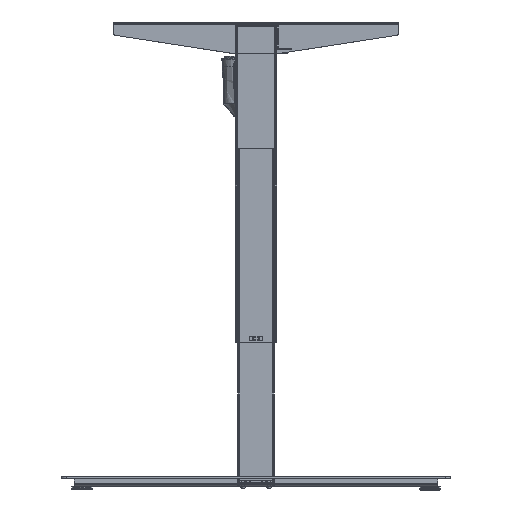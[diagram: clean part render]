
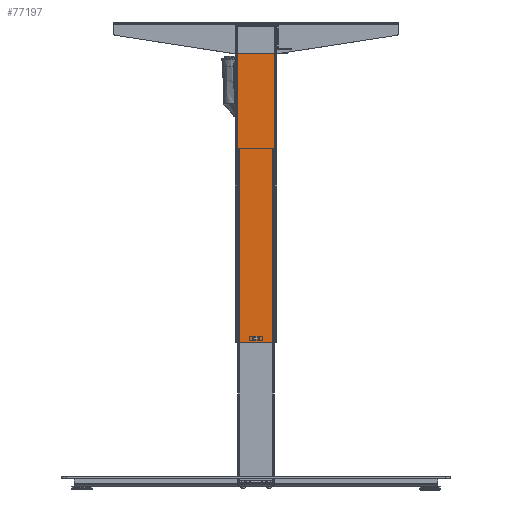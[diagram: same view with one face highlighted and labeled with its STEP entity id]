
A CAD part, left-side view. The second image highlights one B-rep face of the part: STEP entity #77197.
In plain terms, the highlighted planar face has unit normal (-1, 0, 0).
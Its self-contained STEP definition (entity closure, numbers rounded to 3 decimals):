
#2906 = CARTESIAN_POINT ( 'NONE',  ( -29.5, -36.5, 609. ) ) ;
#4529 = ORIENTED_EDGE ( 'NONE', *, *, #134909, .F. ) ;
#5504 = VECTOR ( 'NONE', #14217, 1000. ) ;
#9836 = EDGE_CURVE ( 'NONE', #18278, #105570, #80505, .T. ) ;
#11950 = CARTESIAN_POINT ( 'NONE',  ( -29.5, 6., 6. ) ) ;
#12260 = FACE_BOUND ( 'NONE', #124041, .T. ) ;
#13440 = VECTOR ( 'NONE', #63953, 1000. ) ;
#14217 = DIRECTION ( 'NONE',  ( 0., 0., -1. ) ) ;
#18278 = VERTEX_POINT ( 'NONE', #36962 ) ;
#22524 = EDGE_CURVE ( 'NONE', #122691, #105570, #109787, .T. ) ;
#23440 = VECTOR ( 'NONE', #117798, 1000. ) ;
#27570 = CARTESIAN_POINT ( 'NONE',  ( -29.5, -6., 6. ) ) ;
#27852 = ORIENTED_EDGE ( 'NONE', *, *, #22524, .F. ) ;
#30321 = CARTESIAN_POINT ( 'NONE',  ( -29.5, -6., 10. ) ) ;
#31378 = CARTESIAN_POINT ( 'NONE',  ( -29.5, -36.5, 614. ) ) ;
#32068 = EDGE_CURVE ( 'NONE', #106236, #80094, #35751, .T. ) ;
#34922 = LINE ( 'NONE', #11950, #101483 ) ;
#35751 = LINE ( 'NONE', #45393, #89150 ) ;
#36962 = CARTESIAN_POINT ( 'NONE',  ( -29.5, 36.5, 0. ) ) ;
#37399 = EDGE_CURVE ( 'NONE', #80094, #111363, #51915, .T. ) ;
#42347 = CARTESIAN_POINT ( 'NONE',  ( -29.5, 36.5, 614. ) ) ;
#43112 = CARTESIAN_POINT ( 'NONE',  ( -29.5, 36.5, 609. ) ) ;
#45393 = CARTESIAN_POINT ( 'NONE',  ( -29.5, 6., 10. ) ) ;
#46189 = CARTESIAN_POINT ( 'NONE',  ( -29.5, 6., 10. ) ) ;
#47760 = FACE_OUTER_BOUND ( 'NONE', #110493, .T. ) ;
#49259 = EDGE_CURVE ( 'NONE', #94792, #18278, #98561, .T. ) ;
#51915 = LINE ( 'NONE', #97063, #23440 ) ;
#56737 = ORIENTED_EDGE ( 'NONE', *, *, #9836, .T. ) ;
#58790 = ORIENTED_EDGE ( 'NONE', *, *, #37399, .T. ) ;
#63953 = DIRECTION ( 'NONE',  ( 0., 0., -1. ) ) ;
#68998 = LINE ( 'NONE', #81550, #5504 ) ;
#69983 = PLANE ( 'NONE',  #125841 ) ;
#76182 = CARTESIAN_POINT ( 'NONE',  ( -29.5, 39.5, 609. ) ) ;
#77115 = DIRECTION ( 'NONE',  ( 0., 0., -1. ) ) ;
#77197 = ADVANCED_FACE ( 'NONE', ( #12260, #47760 ), #69983, .F. ) ;
#78361 = LINE ( 'NONE', #76182, #107340 ) ;
#78581 = DIRECTION ( 'NONE',  ( 0., 1., 0. ) ) ;
#79609 = DIRECTION ( 'NONE',  ( 1., 0., 0. ) ) ;
#80094 = VERTEX_POINT ( 'NONE', #46189 ) ;
#80505 = LINE ( 'NONE', #111607, #85072 ) ;
#81259 = CARTESIAN_POINT ( 'NONE',  ( -29.5, -36.5, 0. ) ) ;
#81550 = CARTESIAN_POINT ( 'NONE',  ( -29.5, -6., 10. ) ) ;
#85072 = VECTOR ( 'NONE', #114522, 1000. ) ;
#86959 = ORIENTED_EDGE ( 'NONE', *, *, #91673, .T. ) ;
#89150 = VECTOR ( 'NONE', #125963, 1000. ) ;
#89560 = VECTOR ( 'NONE', #77115, 1000. ) ;
#91673 = EDGE_CURVE ( 'NONE', #111363, #120098, #68998, .T. ) ;
#94792 = VERTEX_POINT ( 'NONE', #43112 ) ;
#97063 = CARTESIAN_POINT ( 'NONE',  ( -29.5, 6., 10. ) ) ;
#98561 = LINE ( 'NONE', #42347, #89560 ) ;
#101205 = EDGE_CURVE ( 'NONE', #120098, #106236, #34922, .T. ) ;
#101483 = VECTOR ( 'NONE', #78581, 1000. ) ;
#102553 = DIRECTION ( 'NONE',  ( 0., 1., 0. ) ) ;
#105570 = VERTEX_POINT ( 'NONE', #81259 ) ;
#106236 = VERTEX_POINT ( 'NONE', #114378 ) ;
#107340 = VECTOR ( 'NONE', #123449, 1000. ) ;
#108436 = ORIENTED_EDGE ( 'NONE', *, *, #49259, .T. ) ;
#109787 = LINE ( 'NONE', #31378, #13440 ) ;
#110493 = EDGE_LOOP ( 'NONE', ( #27852, #4529, #108436, #56737 ) ) ;
#111363 = VERTEX_POINT ( 'NONE', #30321 ) ;
#111607 = CARTESIAN_POINT ( 'NONE',  ( -29.5, 36.5, 0. ) ) ;
#114378 = CARTESIAN_POINT ( 'NONE',  ( -29.5, 6., 6. ) ) ;
#114522 = DIRECTION ( 'NONE',  ( 0., -1., 0. ) ) ;
#115084 = CARTESIAN_POINT ( 'NONE',  ( -29.5, 36.5, 614. ) ) ;
#117798 = DIRECTION ( 'NONE',  ( 0., -1., 0. ) ) ;
#120036 = ORIENTED_EDGE ( 'NONE', *, *, #101205, .T. ) ;
#120098 = VERTEX_POINT ( 'NONE', #27570 ) ;
#122691 = VERTEX_POINT ( 'NONE', #2906 ) ;
#123449 = DIRECTION ( 'NONE',  ( 0., -1., 0. ) ) ;
#124041 = EDGE_LOOP ( 'NONE', ( #138181, #58790, #86959, #120036 ) ) ;
#125841 = AXIS2_PLACEMENT_3D ( 'NONE', #115084, #79609, #102553 ) ;
#125963 = DIRECTION ( 'NONE',  ( 0., 0., 1. ) ) ;
#134909 = EDGE_CURVE ( 'NONE', #94792, #122691, #78361, .T. ) ;
#138181 = ORIENTED_EDGE ( 'NONE', *, *, #32068, .T. ) ;
